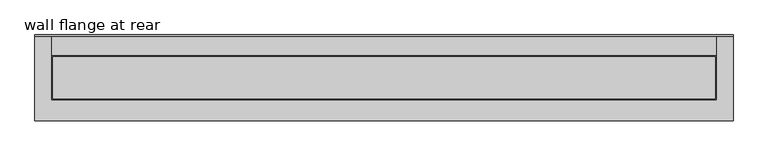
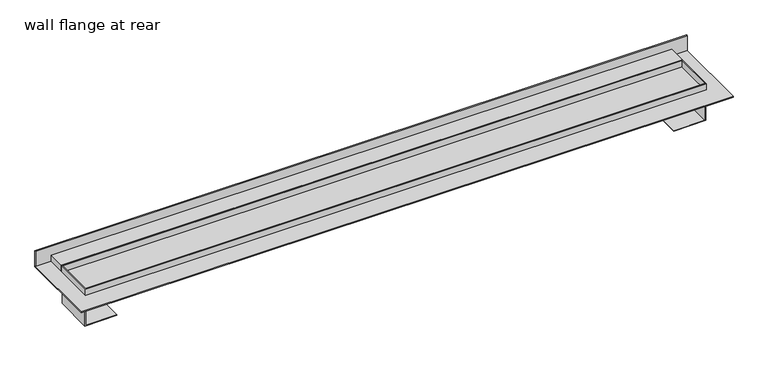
"""IFC4 building model written with IfcOpenShell, lengths in millimetres: sanitary terminal geometry, PF_ST_UN_ShowerDrain M plus_ACO : wall flange at rear."""

from ifc_helpers import new_model, si_unit, frame, origin, origin_with_axes, place, context, project, spatial, polyline, outline, extrude, faceted_brep, source, transform, mapped, element, save


def wall_flange_at_rear_d685a3a6(model_context):
    return source(origin(), model_context, "Body", "SolidModel", [
        extrude(outline(polyline([(630.0, 77.0), (630.0, -78.0), (-630.0, -78.0), (-630.0, 77.0), (630.0, 77.0)])), origin_with_axes(), (0.0, 0.0, 1.0), 2.0),
        extrude(outline(polyline([(-16.5, -598.0), (-16.5, -600.0), (-61.5, -600.0), (-61.5, -538.0), (-60.5, -538.0), (-60.5, -598.0), (-16.5, -598.0)])), frame((0.0, -38.0, 0.0), z_axis=(0.0, 1.0, 0.0), x_axis=(0.0, 0.0, 1.0)), (0.0, 0.0, 1.0), 76.0),
        extrude(outline(polyline([(-16.5, 598.0), (-60.5, 598.0), (-60.5, 538.0), (-61.5, 538.0), (-61.5, 600.0), (-16.5, 600.0), (-16.5, 598.0)])), frame((0.0, -38.0, 0.0), z_axis=(0.0, 1.0, 0.0), x_axis=(0.0, 0.0, 1.0)), (0.0, 0.0, 1.0), 76.0),
        faceted_brep([(-600.0, 75.0, 15.0), (-600.0, 40.0, 15.0), (600.0, 40.0, 15.0), (600.0, 75.0, 15.0), (600.0, 75.0, 2.0), (600.0, 40.0, 2.0), (-600.0, 40.0, 2.0), (-600.0, 75.0, 2.0), (630.0, 77.0, 33.0), (-630.0, 77.0, 33.0), (-630.0, 75.0, 33.0), (630.0, 75.0, 33.0), (630.0, 77.0, 0.0), (630.0, 75.0, 0.0), (-630.0, 75.0, 0.0), (-630.0, 77.0, 0.0)], [[[0, 1, 2, 3]], [[4, 5, 6, 7]], [[1, 0, 7, 6]], [[2, 1, 6, 5]], [[3, 2, 5, 4]], [[8, 9, 10, 11]], [[12, 13, 14, 15]], [[9, 8, 12, 15]], [[10, 9, 15, 14]], [[11, 10, 14, 13], [0, 3, 4, 7]], [[8, 11, 13, 12]]]),
        faceted_brep([(600.0, 40.0, 15.0), (-600.0, 40.0, 15.0), (-600.0, -40.0, 15.0), (600.0, -40.0, 15.0), (-598.0, -38.0, 15.0), (-598.0, 38.0, 15.0), (598.0, 38.0, 15.0), (598.0, -38.0, 15.0), (600.0, 40.0, -16.5), (600.0, -40.0, -16.5), (-600.0, -40.0, -16.5), (-600.0, 40.0, -16.5), (-598.0, 38.0, -6.0), (-598.0, -38.0, -6.0), (598.0, -38.0, -6.0), (598.0, 38.0, -6.0)], [[[0, 1, 2, 3], [4, 5, 6, 7]], [[8, 9, 10, 11]], [[1, 0, 8, 11]], [[2, 1, 11, 10]], [[3, 2, 10, 9]], [[0, 3, 9, 8]], [[12, 13, 14, 15]], [[13, 12, 5, 4]], [[14, 13, 4, 7]], [[15, 14, 7, 6]], [[12, 15, 6, 5]]]),
    ])


if __name__ == "__main__":
    model = new_model("IFC4")
    model_context = context("Model", 3, world=origin())
    ifc_project = project(units=[si_unit("LENGTHUNIT", "METRE", prefix="MILLI")], contexts=[model_context])
    site = spatial("IfcSite", under=ifc_project)
    building = spatial("IfcBuilding", under=site)
    placement = place(None, origin())
    wall_flange_at_rear_shape = wall_flange_at_rear_d685a3a6(model_context)
    element("IfcSanitaryTerminal", 1, ObjectType="PF_ST_UN_ShowerDrain M plus_ACO : wall flange at rear", at=placement, inside=building, context=model_context, shape_type="MappedRepresentation", body=[
        mapped(wall_flange_at_rear_shape, transform((0.0, 0.0, 0.0), x_axis=(1.0, 0.0, 0.0), y_axis=(0.0, 1.0, 0.0), z_axis=(0.0, 0.0, 1.0))),
    ])
    save(model, "model.ifc")
